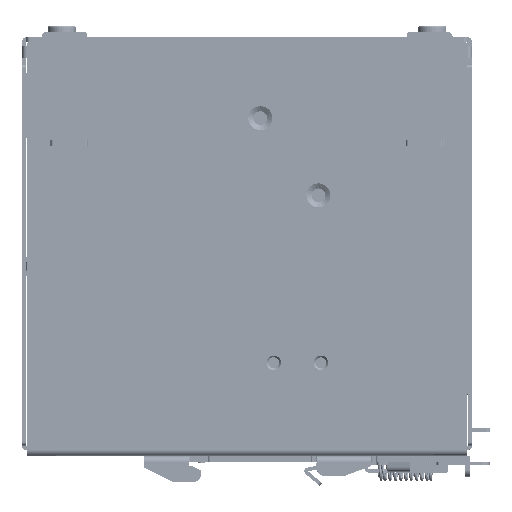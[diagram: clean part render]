
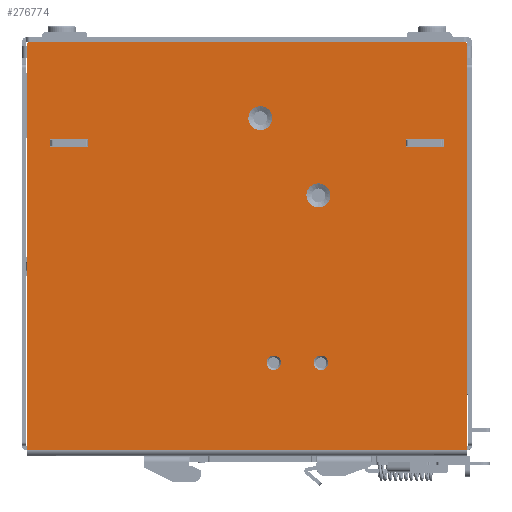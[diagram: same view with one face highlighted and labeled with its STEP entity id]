
A CAD part, top view. The second image highlights one B-rep face of the part: STEP entity #276774.
In plain terms, the highlighted planar face has unit normal (0, 0, 1) as drawn and (-1, 0, 0) by its records, which use the part's own axes.
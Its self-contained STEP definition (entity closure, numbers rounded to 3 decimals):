
#275989=CARTESIAN_POINT('',(-19.,-59.75,-1.));
#275990=DIRECTION('',(-1.,0.,0.));
#275991=DIRECTION('',(0.,-1.,0.));
#275992=AXIS2_PLACEMENT_3D('',#275989,#275990,#275991);
#275994=DIRECTION('',(0.,0.,-1.));
#275995=VECTOR('',#275994,111.65);
#275996=CARTESIAN_POINT('',(-19.,-60.75,-1.));
#275997=LINE('',#275996,#275995);
#275998=DIRECTION('',(0.,0.,1.));
#275999=VECTOR('',#275998,111.65);
#276000=CARTESIAN_POINT('',(-19.,60.75,-112.65));
#276001=LINE('',#276000,#275999);
#276002=CARTESIAN_POINT('',(-19.,59.75,-1.));
#276003=DIRECTION('',(-1.,0.,0.));
#276004=DIRECTION('',(0.,0.,1.));
#276005=AXIS2_PLACEMENT_3D('',#276002,#276003,#276004);
#276007=DIRECTION('',(0.,-1.,0.));
#276008=VECTOR('',#276007,119.5);
#276009=CARTESIAN_POINT('',(-19.,59.75,0.));
#276010=LINE('',#276009,#276008);
#276011=DIRECTION('',(0.,0.,-1.));
#276012=VECTOR('',#276011,2.2);
#276013=CARTESIAN_POINT('',(-19.,43.8,-26.8));
#276014=LINE('',#276013,#276012);
#276015=DIRECTION('',(0.,-1.,0.));
#276016=VECTOR('',#276015,10.4);
#276017=CARTESIAN_POINT('',(-19.,54.2,-26.8));
#276018=LINE('',#276017,#276016);
#276019=DIRECTION('',(0.,0.,1.));
#276020=VECTOR('',#276019,2.2);
#276021=CARTESIAN_POINT('',(-19.,54.2,-29.));
#276022=LINE('',#276021,#276020);
#276023=DIRECTION('',(0.,1.,0.));
#276024=VECTOR('',#276023,10.4);
#276025=CARTESIAN_POINT('',(-19.,43.8,-29.));
#276026=LINE('',#276025,#276024);
#276027=DIRECTION('',(0.,-1.,0.));
#276028=VECTOR('',#276027,10.4);
#276029=CARTESIAN_POINT('',(-19.,-43.8,-26.8));
#276030=LINE('',#276029,#276028);
#276031=DIRECTION('',(0.,0.,1.));
#276032=VECTOR('',#276031,2.2);
#276033=CARTESIAN_POINT('',(-19.,-43.8,-29.));
#276034=LINE('',#276033,#276032);
#276035=DIRECTION('',(0.,1.,0.));
#276036=VECTOR('',#276035,10.4);
#276037=CARTESIAN_POINT('',(-19.,-54.2,-29.));
#276038=LINE('',#276037,#276036);
#276039=DIRECTION('',(0.,0.,-1.));
#276040=VECTOR('',#276039,2.2);
#276041=CARTESIAN_POINT('',(-19.,-54.2,-26.8));
#276042=LINE('',#276041,#276040);
#276043=CARTESIAN_POINT('',(-19.,-3.7,-21.069));
#276044=DIRECTION('',(1.,0.,0.));
#276045=DIRECTION('',(0.,0.,-1.));
#276046=AXIS2_PLACEMENT_3D('',#276043,#276044,#276045);
#276048=CARTESIAN_POINT('',(-19.,-3.7,-21.069));
#276049=DIRECTION('',(1.,0.,0.));
#276050=DIRECTION('',(0.,0.,1.));
#276051=AXIS2_PLACEMENT_3D('',#276048,#276049,#276050);
#276053=CARTESIAN_POINT('',(-19.,-19.7,-42.359));
#276054=DIRECTION('',(1.,0.,0.));
#276055=DIRECTION('',(0.,0.,-1.));
#276056=AXIS2_PLACEMENT_3D('',#276053,#276054,#276055);
#276058=CARTESIAN_POINT('',(-19.,-19.7,-42.359));
#276059=DIRECTION('',(1.,0.,0.));
#276060=DIRECTION('',(0.,0.,1.));
#276061=AXIS2_PLACEMENT_3D('',#276058,#276059,#276060);
#276063=CARTESIAN_POINT('',(-19.,-20.4,-88.5));
#276064=DIRECTION('',(1.,0.,0.));
#276065=DIRECTION('',(0.,0.,-1.));
#276066=AXIS2_PLACEMENT_3D('',#276063,#276064,#276065);
#276068=CARTESIAN_POINT('',(-19.,-20.4,-88.5));
#276069=DIRECTION('',(1.,0.,0.));
#276070=DIRECTION('',(0.,0.,1.));
#276071=AXIS2_PLACEMENT_3D('',#276068,#276069,#276070);
#276073=CARTESIAN_POINT('',(-19.,-7.4,-88.5));
#276074=DIRECTION('',(1.,0.,0.));
#276075=DIRECTION('',(0.,0.,-1.));
#276076=AXIS2_PLACEMENT_3D('',#276073,#276074,#276075);
#276078=CARTESIAN_POINT('',(-19.,-7.4,-88.5));
#276079=DIRECTION('',(1.,0.,0.));
#276080=DIRECTION('',(0.,0.,1.));
#276081=AXIS2_PLACEMENT_3D('',#276078,#276079,#276080);
#276112=DIRECTION('',(0.,1.,0.));
#276113=VECTOR('',#276112,121.5);
#276114=CARTESIAN_POINT('',(-19.,-60.75,-112.65));
#276115=LINE('',#276114,#276113);
#276462=CARTESIAN_POINT('',(-19.,60.75,-112.65));
#276463=VERTEX_POINT('',#276462);
#276464=CARTESIAN_POINT('',(-19.,-60.75,-112.65));
#276465=VERTEX_POINT('',#276464);
#276470=CARTESIAN_POINT('',(-19.,-60.75,-1.));
#276471=CARTESIAN_POINT('',(-19.,-59.75,0.));
#276472=VERTEX_POINT('',#276470);
#276473=VERTEX_POINT('',#276471);
#276478=CARTESIAN_POINT('',(-19.,59.75,0.));
#276479=CARTESIAN_POINT('',(-19.,60.75,-1.));
#276480=VERTEX_POINT('',#276478);
#276481=VERTEX_POINT('',#276479);
#276494=CARTESIAN_POINT('',(-19.,43.8,-26.8));
#276495=CARTESIAN_POINT('',(-19.,43.8,-29.));
#276496=VERTEX_POINT('',#276494);
#276497=VERTEX_POINT('',#276495);
#276498=CARTESIAN_POINT('',(-19.,54.2,-29.));
#276499=VERTEX_POINT('',#276498);
#276500=CARTESIAN_POINT('',(-19.,54.2,-26.8));
#276501=VERTEX_POINT('',#276500);
#276502=CARTESIAN_POINT('',(-19.,-43.8,-26.8));
#276503=CARTESIAN_POINT('',(-19.,-54.2,-26.8));
#276504=VERTEX_POINT('',#276502);
#276505=VERTEX_POINT('',#276503);
#276506=CARTESIAN_POINT('',(-19.,-54.2,-29.));
#276507=VERTEX_POINT('',#276506);
#276508=CARTESIAN_POINT('',(-19.,-43.8,-29.));
#276509=VERTEX_POINT('',#276508);
#276578=CARTESIAN_POINT('',(-19.,-3.7,-24.369));
#276579=CARTESIAN_POINT('',(-19.,-3.7,-17.769));
#276580=VERTEX_POINT('',#276578);
#276581=VERTEX_POINT('',#276579);
#276586=CARTESIAN_POINT('',(-19.,-19.7,-45.659));
#276587=CARTESIAN_POINT('',(-19.,-19.7,-39.059));
#276588=VERTEX_POINT('',#276586);
#276589=VERTEX_POINT('',#276587);
#276602=CARTESIAN_POINT('',(-19.,-20.4,-90.5));
#276603=CARTESIAN_POINT('',(-19.,-20.4,-86.5));
#276604=VERTEX_POINT('',#276602);
#276605=VERTEX_POINT('',#276603);
#276610=CARTESIAN_POINT('',(-19.,-7.4,-90.5));
#276611=CARTESIAN_POINT('',(-19.,-7.4,-86.5));
#276612=VERTEX_POINT('',#276610);
#276613=VERTEX_POINT('',#276611);
#276712=CARTESIAN_POINT('',(-19.,0.,0.));
#276713=DIRECTION('',(1.,0.,0.));
#276714=DIRECTION('',(0.,0.,-1.));
#276715=AXIS2_PLACEMENT_3D('',#276712,#276713,#276714);
#276716=PLANE('',#276715);
#276718=ORIENTED_EDGE('',*,*,#276717,.F.);
#276720=ORIENTED_EDGE('',*,*,#276719,.T.);
#276722=ORIENTED_EDGE('',*,*,#276721,.T.);
#276724=ORIENTED_EDGE('',*,*,#276723,.T.);
#276726=ORIENTED_EDGE('',*,*,#276725,.F.);
#276728=ORIENTED_EDGE('',*,*,#276727,.T.);
#276729=EDGE_LOOP('',(#276718,#276720,#276722,#276724,#276726,#276728));
#276730=FACE_OUTER_BOUND('',#276729,.F.);
#276732=ORIENTED_EDGE('',*,*,#276731,.F.);
#276734=ORIENTED_EDGE('',*,*,#276733,.F.);
#276736=ORIENTED_EDGE('',*,*,#276735,.F.);
#276738=ORIENTED_EDGE('',*,*,#276737,.F.);
#276739=EDGE_LOOP('',(#276732,#276734,#276736,#276738));
#276740=FACE_BOUND('',#276739,.F.);
#276742=ORIENTED_EDGE('',*,*,#276741,.F.);
#276744=ORIENTED_EDGE('',*,*,#276743,.F.);
#276746=ORIENTED_EDGE('',*,*,#276745,.F.);
#276748=ORIENTED_EDGE('',*,*,#276747,.F.);
#276749=EDGE_LOOP('',(#276742,#276744,#276746,#276748));
#276750=FACE_BOUND('',#276749,.F.);
#276752=ORIENTED_EDGE('',*,*,#276751,.F.);
#276754=ORIENTED_EDGE('',*,*,#276753,.F.);
#276755=EDGE_LOOP('',(#276752,#276754));
#276756=FACE_BOUND('',#276755,.F.);
#276758=ORIENTED_EDGE('',*,*,#276757,.F.);
#276760=ORIENTED_EDGE('',*,*,#276759,.F.);
#276761=EDGE_LOOP('',(#276758,#276760));
#276762=FACE_BOUND('',#276761,.F.);
#276764=ORIENTED_EDGE('',*,*,#276763,.F.);
#276766=ORIENTED_EDGE('',*,*,#276765,.F.);
#276767=EDGE_LOOP('',(#276764,#276766));
#276768=FACE_BOUND('',#276767,.F.);
#276769=ORIENTED_EDGE('',*,*,#276702,.F.);
#276771=ORIENTED_EDGE('',*,*,#276770,.F.);
#276772=EDGE_LOOP('',(#276769,#276771));
#276773=FACE_BOUND('',#276772,.F.);
#275993=CIRCLE('',#275992,1.);
#276006=CIRCLE('',#276005,1.);
#276047=CIRCLE('',#276046,3.3);
#276052=CIRCLE('',#276051,3.3);
#276057=CIRCLE('',#276056,3.3);
#276062=CIRCLE('',#276061,3.3);
#276067=CIRCLE('',#276066,2.);
#276072=CIRCLE('',#276071,2.);
#276077=CIRCLE('',#276076,2.);
#276082=CIRCLE('',#276081,2.);
#276702=EDGE_CURVE('',#276612,#276613,#276077,.T.);
#276717=EDGE_CURVE('',#276472,#276473,#275993,.T.);
#276719=EDGE_CURVE('',#276472,#276465,#275997,.T.);
#276721=EDGE_CURVE('',#276465,#276463,#276115,.T.);
#276723=EDGE_CURVE('',#276463,#276481,#276001,.T.);
#276725=EDGE_CURVE('',#276480,#276481,#276006,.T.);
#276727=EDGE_CURVE('',#276480,#276473,#276010,.T.);
#276731=EDGE_CURVE('',#276496,#276497,#276014,.T.);
#276733=EDGE_CURVE('',#276501,#276496,#276018,.T.);
#276735=EDGE_CURVE('',#276499,#276501,#276022,.T.);
#276737=EDGE_CURVE('',#276497,#276499,#276026,.T.);
#276741=EDGE_CURVE('',#276504,#276505,#276030,.T.);
#276743=EDGE_CURVE('',#276509,#276504,#276034,.T.);
#276745=EDGE_CURVE('',#276507,#276509,#276038,.T.);
#276747=EDGE_CURVE('',#276505,#276507,#276042,.T.);
#276751=EDGE_CURVE('',#276580,#276581,#276047,.T.);
#276753=EDGE_CURVE('',#276581,#276580,#276052,.T.);
#276757=EDGE_CURVE('',#276588,#276589,#276057,.T.);
#276759=EDGE_CURVE('',#276589,#276588,#276062,.T.);
#276763=EDGE_CURVE('',#276604,#276605,#276067,.T.);
#276765=EDGE_CURVE('',#276605,#276604,#276072,.T.);
#276770=EDGE_CURVE('',#276613,#276612,#276082,.T.);
#276774=ADVANCED_FACE('',(#276730,#276740,#276750,#276756,#276762,#276768,
#276773),#276716,.F.);
